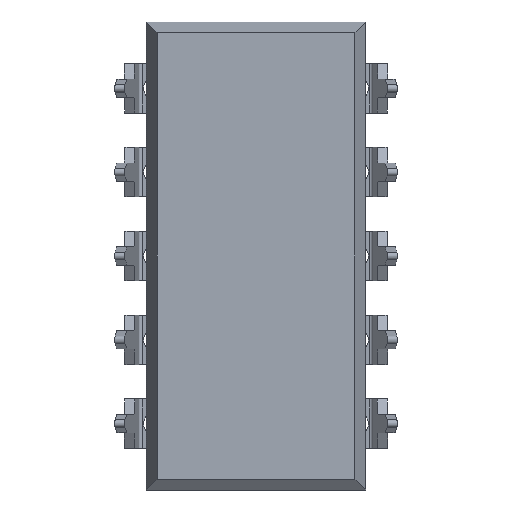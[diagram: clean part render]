
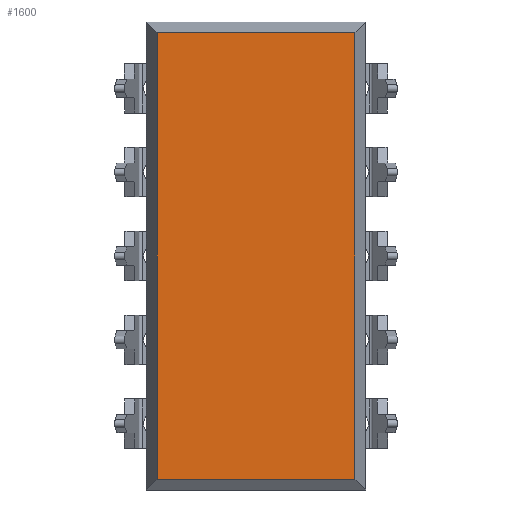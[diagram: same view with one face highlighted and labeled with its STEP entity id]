
A CAD part, front view. The second image highlights one B-rep face of the part: STEP entity #1600.
In plain terms, the highlighted planar face has unit normal (0, -1, 0).
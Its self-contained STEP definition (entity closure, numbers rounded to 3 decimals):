
#697 = EDGE_LOOP ( 'NONE', ( #5670, #22556, #11198, #19291 ) ) ;
#1600 = ADVANCED_FACE ( 'NONE', ( #15064 ), #22168, .F. ) ;
#2861 = DIRECTION ( 'NONE',  ( -1., 0., 0. ) ) ;
#3137 = VECTOR ( 'NONE', #2861, 1000. ) ;
#3151 = LINE ( 'NONE', #10299, #20444 ) ;
#3505 = CARTESIAN_POINT ( 'NONE',  ( -2.997, 0., 13.852 ) ) ;
#4020 = EDGE_CURVE ( 'NONE', #22596, #7698, #11763, .T. ) ;
#4515 = VECTOR ( 'NONE', #22337, 1000. ) ;
#5512 = CARTESIAN_POINT ( 'NONE',  ( 3.325, 0., 13.852 ) ) ;
#5670 = ORIENTED_EDGE ( 'NONE', *, *, #21369, .F. ) ;
#6137 = CARTESIAN_POINT ( 'NONE',  ( -2.997, 0., 14.18 ) ) ;
#6741 = VECTOR ( 'NONE', #12679, 1000. ) ;
#7698 = VERTEX_POINT ( 'NONE', #10406 ) ;
#8084 = LINE ( 'NONE', #15244, #4515 ) ;
#10299 = CARTESIAN_POINT ( 'NONE',  ( -2.997, 0., 14.18 ) ) ;
#10406 = CARTESIAN_POINT ( 'NONE',  ( -2.997, 0., 0.328 ) ) ;
#11198 = ORIENTED_EDGE ( 'NONE', *, *, #13829, .T. ) ;
#11763 = LINE ( 'NONE', #18903, #3137 ) ;
#12067 = AXIS2_PLACEMENT_3D ( 'NONE', #6137, #13300, #20425 ) ;
#12679 = DIRECTION ( 'NONE',  ( -1., 0., 0. ) ) ;
#13300 = DIRECTION ( 'NONE',  ( 0., 1., 0. ) ) ;
#13368 = VERTEX_POINT ( 'NONE', #3505 ) ;
#13776 = CARTESIAN_POINT ( 'NONE',  ( 2.997, 0., 13.852 ) ) ;
#13829 = EDGE_CURVE ( 'NONE', #13368, #7698, #3151, .T. ) ;
#15064 = FACE_OUTER_BOUND ( 'NONE', #697, .T. ) ;
#15244 = CARTESIAN_POINT ( 'NONE',  ( 2.997, 0., 14.18 ) ) ;
#17472 = DIRECTION ( 'NONE',  ( 0., 0., -1. ) ) ;
#17792 = CARTESIAN_POINT ( 'NONE',  ( 2.997, 0., 0.328 ) ) ;
#18903 = CARTESIAN_POINT ( 'NONE',  ( 3.325, 0., 0.328 ) ) ;
#19291 = ORIENTED_EDGE ( 'NONE', *, *, #4020, .F. ) ;
#20425 = DIRECTION ( 'NONE',  ( 0., 0., 1. ) ) ;
#20444 = VECTOR ( 'NONE', #17472, 1000. ) ;
#20695 = VERTEX_POINT ( 'NONE', #13776 ) ;
#21114 = EDGE_CURVE ( 'NONE', #20695, #13368, #21561, .T. ) ;
#21369 = EDGE_CURVE ( 'NONE', #20695, #22596, #8084, .T. ) ;
#21561 = LINE ( 'NONE', #5512, #6741 ) ;
#22168 = PLANE ( 'NONE',  #12067 ) ;
#22337 = DIRECTION ( 'NONE',  ( 0., 0., -1. ) ) ;
#22556 = ORIENTED_EDGE ( 'NONE', *, *, #21114, .T. ) ;
#22596 = VERTEX_POINT ( 'NONE', #17792 ) ;
